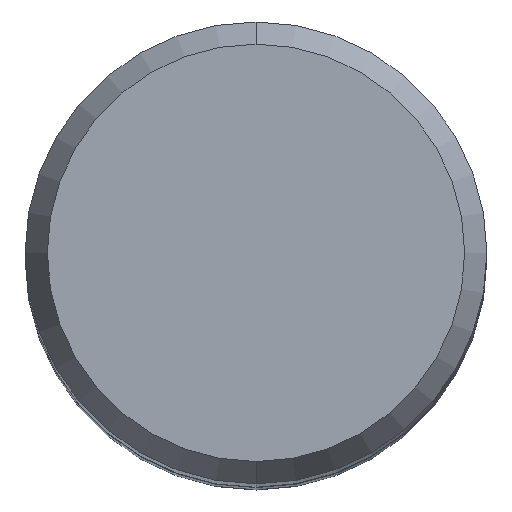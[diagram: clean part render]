
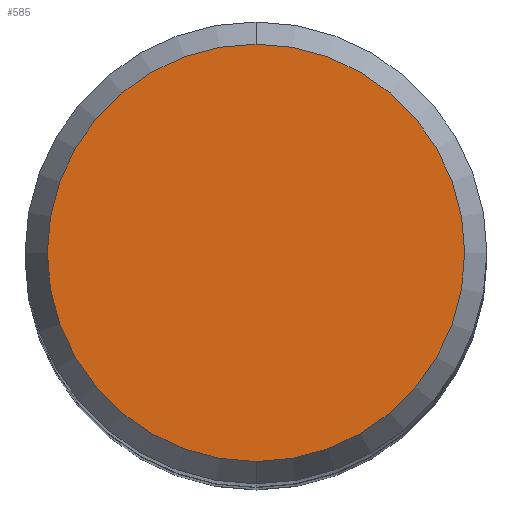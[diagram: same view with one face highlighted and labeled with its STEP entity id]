
A CAD part, top view. The second image highlights one B-rep face of the part: STEP entity #585.
In plain terms, the highlighted planar face has unit normal (0, 0, 1).
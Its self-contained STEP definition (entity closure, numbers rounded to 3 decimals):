
#291=EDGE_CURVE('',#421,#313,#704,.T.);
#313=VERTEX_POINT('',#728);
#421=VERTEX_POINT('',#849);
#499=EDGE_CURVE('',#313,#421,#940,.T.);
#585=ADVANCED_FACE('',(#1033),#1034,.T.);
#704=CIRCLE('',#1224,5.423);
#728=CARTESIAN_POINT('',(0.,-5.423,0.0));
#849=CARTESIAN_POINT('',(0.0,5.423,0.0));
#940=CIRCLE('',#1654,5.423);
#1033=FACE_OUTER_BOUND('',#1875,.T.);
#1034=PLANE('',#1876);
#1224=AXIS2_PLACEMENT_3D('',#2002,#2003,#2004);
#1654=AXIS2_PLACEMENT_3D('',#2279,#2280,#2281);
#1875=EDGE_LOOP('',(#2389,#2390));
#1876=AXIS2_PLACEMENT_3D('',#2391,#2392,#2393);
#2002=CARTESIAN_POINT('',(0.0,0.0,0.0));
#2003=DIRECTION('',(0.0,0.0,-1.0));
#2004=DIRECTION('',(0.0,1.0,0.0));
#2279=CARTESIAN_POINT('',(0.0,0.0,0.0));
#2280=DIRECTION('',(0.0,0.0,-1.0));
#2281=DIRECTION('',(0.0,1.0,0.0));
#2389=ORIENTED_EDGE('',*,*,#291,.F.);
#2390=ORIENTED_EDGE('',*,*,#499,.F.);
#2391=CARTESIAN_POINT('',(0.0,2.711,0.0));
#2392=DIRECTION('',(-0.0,0.0,1.0));
#2393=DIRECTION('',(0.0,-1.0,0.0));
